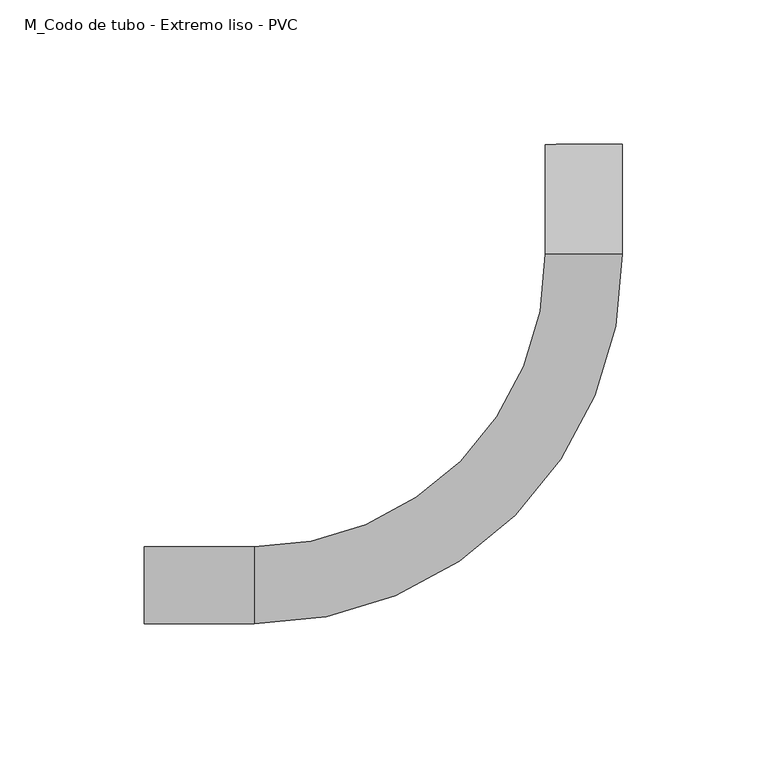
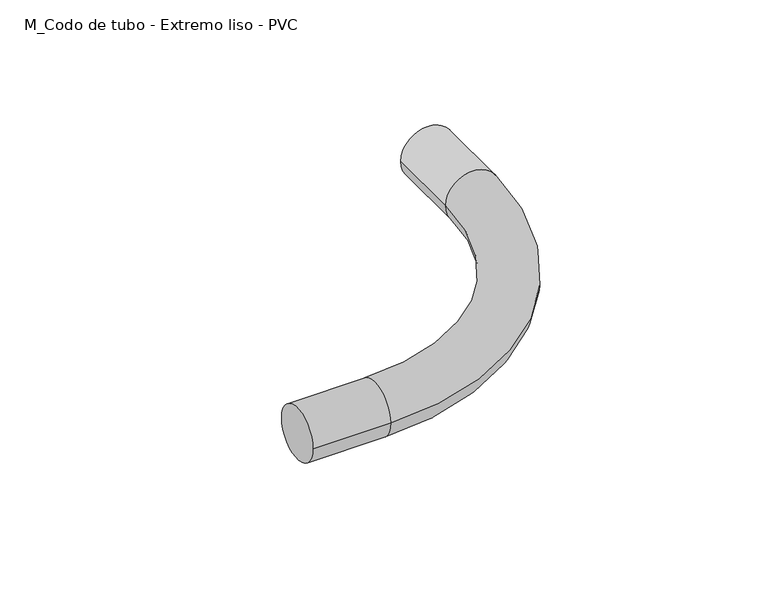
"""IFC4 building model written with IfcOpenShell, lengths in millimetres: cable carrier fitting geometry, M_Codo de tubo - Extremo liso - PVC : CODO ILUMINACION."""

import ifcopenshell
import ifcopenshell.guid

model = None  # the IFC model being written
_history = None  # IfcOwnerHistory: only IFC2X3 demands one
_inside = {}  # id of a spatial element -> (the spatial element, [elements in it])
_under = {}  # id of a project, library or spatial element -> (it, [spatial elements below it])
_declared = {}  # id of a project -> (the project, [libraries it declares])
_typed = {}  # id of a type object -> (the type object, [elements of that type])
_made_of = {}  # id of a material, layer set ... -> (it, [elements and type objects made of it])


def new_model(schema):
    """Start an empty IFC model of exactly this schema.

    Asked for "IFC4X3", IfcOpenShell would pick the latest addendum, in which some entities
    have other attributes; the version numbers below select the first issue.
    IFC2X3 requires an IfcOwnerHistory on every rooted entity: one is made here for all.
    """
    global model, _history
    if schema == "IFC4X3":
        model = ifcopenshell.file(schema_version=(4, 3, 0, 0))
    else:
        model = ifcopenshell.file(schema=schema)
    _inside.clear()
    _under.clear()
    _declared.clear()
    _typed.clear()
    _made_of.clear()
    _history = None
    if model.schema == "IFC2X3":
        org = make("IfcOrganization", Name="unknown")
        user = make(
            "IfcPersonAndOrganization",
            ThePerson=make("IfcPerson", FamilyName="unknown"),
            TheOrganization=org,
        )
        app = make(
            "IfcApplication",
            ApplicationDeveloper=org,
            Version="unknown",
            ApplicationFullName="unknown",
            ApplicationIdentifier="unknown",
        )
        _history = make(
            "IfcOwnerHistory",
            OwningUser=user,
            OwningApplication=app,
            ChangeAction="ADDED",
            CreationDate=0,
        )
    return model


def make(cls, **values):
    """One entity of the class cls with the attributes given. An attribute that is None is left unset."""
    return model.create_entity(
        cls, **{name: value for name, value in values.items() if value is not None}
    )


def rooted(cls, **values):
    """An entity with a GlobalId (a new one), such as an element, a storey or a relation."""
    return make(cls, GlobalId=ifcopenshell.guid.new(), OwnerHistory=_history, **values)


def si_unit(unit_type, name, prefix=None):
    """IfcSIUnit, for example si_unit("LENGTHUNIT", "METRE", prefix="MILLI")."""
    return make("IfcSIUnit", UnitType=unit_type, Prefix=prefix, Name=name)


def assignment(units):
    """IfcUnitAssignment: the units of a project."""
    return None if units is None else make("IfcUnitAssignment", Units=units)


def point(xyz):
    """IfcCartesianPoint."""
    return None if xyz is None else make("IfcCartesianPoint", Coordinates=xyz)


def direction(xyz):
    """IfcDirection."""
    return None if xyz is None else make("IfcDirection", DirectionRatios=xyz)


def frame(location, z_axis=None, x_axis=None):
    """IfcAxis2Placement3D, a coordinate frame: its origin and axes. An axis left out is left unset."""
    return make(
        "IfcAxis2Placement3D",
        Location=point(location),
        Axis=direction(z_axis),
        RefDirection=direction(x_axis),
    )


def origin():
    """The frame at (0, 0, 0) with its axes left unset."""
    return frame((0.0, 0.0, 0.0))


def place(relative_to, where):
    """IfcLocalPlacement: puts the frame where relative to a parent placement (None: the world)."""
    return make(
        "IfcLocalPlacement", PlacementRelTo=relative_to, RelativePlacement=where
    )


def context(
    kind, dimensions, precision=None, world=None, true_north=None, identifier=None
):
    """IfcGeometricRepresentationContext, for example the 3D "Model" context."""
    return make(
        "IfcGeometricRepresentationContext",
        ContextIdentifier=identifier,
        ContextType=kind,
        CoordinateSpaceDimension=dimensions,
        Precision=precision,
        WorldCoordinateSystem=world,
        TrueNorth=true_north,
    )


def project(units=None, contexts=None):
    """IfcProject with its units and contexts."""
    return rooted(
        "IfcProject",
        Name="project",
        RepresentationContexts=contexts,
        UnitsInContext=assignment(units),
    )


def spatial(cls, under=None, at=None, **own):
    """A site, building, storey or space (cls), placed at a placement, below another one or the project."""
    s = rooted(cls, ObjectPlacement=at, **own)
    if under is not None:
        _under.setdefault(under.id(), (under, []))[1].append(s)
    return s


def circle_curve(where, radius):
    """IfcCircle in the frame where."""
    return make("IfcCircle", Position=where, Radius=radius)


def ellipse_curve(where, semi_axis1, semi_axis2):
    """IfcEllipse in the frame where."""
    return make(
        "IfcEllipse", Position=where, SemiAxis1=semi_axis1, SemiAxis2=semi_axis2
    )


def trimmed(basis, trim1, trim2, sense, master):
    """IfcTrimmedCurve: the piece of a basis curve between two trims."""
    return make(
        "IfcTrimmedCurve",
        BasisCurve=basis,
        Trim1=trim1,
        Trim2=trim2,
        SenseAgreement=sense,
        MasterRepresentation=master,
    )


def shape(context_of_items, identifier, shape_type, items):
    """IfcShapeRepresentation: the items that make up one representation, for example the "Body"."""
    return make(
        "IfcShapeRepresentation",
        ContextOfItems=context_of_items,
        RepresentationIdentifier=identifier,
        RepresentationType=shape_type,
        Items=items,
    )


def source(mapping_origin, context_of_items, identifier, shape_type, items):
    """IfcRepresentationMap: a shape defined once, which mapped items show again and again."""
    return make(
        "IfcRepresentationMap",
        MappingOrigin=mapping_origin,
        MappedRepresentation=shape(context_of_items, identifier, shape_type, items),
    )


def transform(
    local_origin,
    x_axis=None,
    y_axis=None,
    z_axis=None,
    scale=None,
    scale2=None,
    scale3=None,
    uniform=True,
):
    """IfcCartesianTransformationOperator3D, or its non-uniform kind. x_axis, y_axis, z_axis: its Axis1, 2, 3."""
    if uniform:
        return make(
            "IfcCartesianTransformationOperator3D",
            Axis1=direction(x_axis),
            Axis2=direction(y_axis),
            LocalOrigin=point(local_origin),
            Scale=scale,
            Axis3=direction(z_axis),
        )
    return make(
        "IfcCartesianTransformationOperator3DnonUniform",
        Axis1=direction(x_axis),
        Axis2=direction(y_axis),
        LocalOrigin=point(local_origin),
        Scale=scale,
        Axis3=direction(z_axis),
        Scale2=scale2,
        Scale3=scale3,
    )


def mapped(mapping_source, mapping_target):
    """IfcMappedItem: shows the shape of a source again, moved by a transform."""
    return make(
        "IfcMappedItem", MappingSource=mapping_source, MappingTarget=mapping_target
    )


def made_of(thing, what):
    """Note that an element or type object is made of a material, layer set ...; save() writes the relation."""
    if what is not None:
        _made_of.setdefault(what.id(), (what, []))[1].append(thing)
    return thing


def element(
    cls,
    number,
    at=None,
    inside=None,
    cuts=None,
    type_object=None,
    material=None,
    context=None,
    identifier="Body",
    shape_type=None,
    held_by="IfcProductDefinitionShape",
    body=None,
    shapes=None,
    **own,
):
    """One element of the class cls, such as IfcWall. Its Tag is "e" and its number.

    at: its placement. inside: the storey or other place that contains it. cuts: it is an
    opening in that element (IfcRelVoidsElement). A single representation is given by context,
    identifier, shape_type and body (its items); several are given by shapes. held_by: the class
    of the entity that holds the representations. save() writes the other relations.
    """
    e = rooted(cls, Tag="e%d" % number, ObjectPlacement=at, **own)
    if body is not None:
        shapes = [shape(context, identifier, shape_type, body)]
    if shapes is not None:
        e.Representation = make(held_by, Representations=shapes)
    if inside is not None:
        _inside.setdefault(inside.id(), (inside, []))[1].append(e)
    if cuts is not None:
        rooted(
            "IfcRelVoidsElement", RelatingBuildingElement=cuts, RelatedOpeningElement=e
        )
    if type_object is not None:
        _typed.setdefault(type_object.id(), (type_object, []))[1].append(e)
    return made_of(e, material)


def aggregate(whole, parts):
    """IfcRelAggregates: a whole, such as a stair, and the parts it consists of."""
    return rooted("IfcRelAggregates", RelatingObject=whole, RelatedObjects=parts)


def save(model, path):
    """Write the relations noted so far, then the file.

    IfcRelAggregates (storeys below a building ...), IfcRelContainedInSpatialStructure (elements
    in a storey), IfcRelDefinesByType, IfcRelAssociatesMaterial and IfcRelDeclares: one each for
    every whole, place, type object, material and project.
    """
    for whole, parts in _under.values():
        aggregate(whole, parts)
    for where, things in _inside.values():
        rooted(
            "IfcRelContainedInSpatialStructure",
            RelatedElements=things,
            RelatingStructure=where,
        )
    for kind, things in _typed.values():
        rooted("IfcRelDefinesByType", RelatedObjects=things, RelatingType=kind)
    for what, things in _made_of.values():
        rooted("IfcRelAssociatesMaterial", RelatedObjects=things, RelatingMaterial=what)
    for by, libraries in _declared.values():
        rooted("IfcRelDeclares", RelatingContext=by, RelatedDefinitions=libraries)
    model.write(path)


def plane_surface(at):
    """IfcPlane: the flat surface through the origin of the frame at, square to its z axis."""
    return make("IfcPlane", Position=at)


def cylinder_surface(at, radius):
    """IfcCylindricalSurface: all points at the distance radius from the z axis of the frame at."""
    return make("IfcCylindricalSurface", Position=at, Radius=radius)


def revolved_surface(curve, axis_point, axis_direction):
    """IfcSurfaceOfRevolution: the curve turned about the line through axis_point along axis_direction."""
    return make(
        "IfcSurfaceOfRevolution",
        SweptCurve=make("IfcArbitraryOpenProfileDef", ProfileType="CURVE", Curve=curve),
        AxisPosition=make("IfcAxis1Placement", Location=point(axis_point), Axis=direction(axis_direction)),
    )


def advanced_brep(points, edges, surfaces, faces):
    """IfcAdvancedBrep: a solid bounded by faces that lie on surfaces and meet in shared edges.

    An edge is (start, end): straight between two places in points (the first is 0);
    or (start, end, curve); or (start, end, curve, False) where it runs against its curve.
    A face is (place in surfaces, loops), or (place, loops, False) where it looks against
    its surface's normal. A loop lists edges by number (the first is 1), with a minus sign
    where the edge is run from its end to its start. The first loop is the outer one.
    """
    corners = [point(p) for p in points]
    vertices = [make("IfcVertexPoint", VertexGeometry=c) for c in corners]
    made = []
    for start, end, *more in edges:
        made.append(
            make(
                "IfcEdgeCurve",
                EdgeStart=vertices[start],
                EdgeEnd=vertices[end],
                EdgeGeometry=more[0] if more else make("IfcPolyline", Points=[corners[start], corners[end]]),
                SameSense=more[1] if len(more) > 1 else True,
            )
        )
    hull = []
    for where, loops, *sense in faces:
        bounds = []
        for j, loop in enumerate(loops):
            ring = [make("IfcOrientedEdge", EdgeElement=made[abs(k) - 1], Orientation=k > 0) for k in loop]
            bounds.append(
                make(
                    "IfcFaceOuterBound" if j == 0 else "IfcFaceBound",
                    Bound=make("IfcEdgeLoop", EdgeList=ring),
                    Orientation=True,
                )
            )
        hull.append(make("IfcAdvancedFace", Bounds=bounds, FaceSurface=surfaces[where], SameSense=sense[0] if sense else True))
    return make("IfcAdvancedBrep", Outer=make("IfcClosedShell", CfsFaces=hull))


def m_codo_de_tubo_extremo_liso_pvc_be22f626(model_context):
    return source(origin(), model_context, "Body", "AdvancedBrep", [
        advanced_brep(
        [(-152.8150662, -13.335, 0.0), (-152.8150662, 13.335, 0.0), (-114.7150662, -13.335, 0.0), (-114.7150662, 13.335, 0.0), (-13.7507295, 114.6659761, 0.0), (12.9190953, 114.762649, 0.0), (12.7809911, 152.8623987, 0.0), (-13.8888337, 152.7657258, 0.0)],
        [
            (0, 1, circle_curve(frame((-152.8150662, 0.0, 0.0), z_axis=(-1.0, 0.0, 0.0), x_axis=(0.0, 1.0, 0.0)), 13.335)),
            (1, 0, circle_curve(frame((-152.8150662, 0.0, 0.0), z_axis=(-1.0, 0.0, 0.0), x_axis=(0.0, 1.0, 0.0)), 13.335)),
            (0, 2),
            (2, 3, circle_curve(frame((-114.7150662, 0.0, 0.0), z_axis=(-1.0, 0.0, 0.0), x_axis=(0.0, 1.0, 0.0)), 13.335)),
            (3, 1),
            (3, 2, circle_curve(frame((-114.7150662, 0.0, 0.0), z_axis=(-1.0, 0.0, 0.0), x_axis=(0.0, 1.0, 0.0)), 13.335)),
            (4, 3, circle_curve(frame((-114.7150662, 114.3, 0.0), z_axis=(0.0, 0.0, -1.0), x_axis=(0.0, -1.0, 0.0)), 100.965)),
            (2, 5, circle_curve(frame((-114.7150662, 114.3, 0.0), z_axis=(0.0, 0.0, 1.0), x_axis=(0.0, -1.0, 0.0)), 127.635)),
            (5, 4, circle_curve(frame((-0.4158171, 114.7143126, 0.0), z_axis=(0.003624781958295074, -0.999993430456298, 0.0), x_axis=(-0.999993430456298, -0.003624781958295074, 0.0)), 13.335)),
            (4, 5, circle_curve(frame((-0.4158171, 114.7143126, 0.0), z_axis=(0.003624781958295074, -0.999993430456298, 0.0), x_axis=(-0.999993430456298, -0.003624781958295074, 0.0)), 13.335)),
            (6, 7, circle_curve(frame((-0.5539213, 152.8140623, 0.0), z_axis=(-0.0036247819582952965, 0.999993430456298, 0.0), x_axis=(-0.999993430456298, -0.0036247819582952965, 0.0)), 13.335)),
            (7, 6, circle_curve(frame((-0.5539213, 152.8140623, 0.0), z_axis=(-0.0036247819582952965, 0.999993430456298, 0.0), x_axis=(-0.999993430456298, -0.0036247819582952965, 0.0)), 13.335)),
            (5, 6),
            (7, 4),
        ],
        [
            plane_surface(frame((-152.8150662, 0.0, 0.0), z_axis=(-1.0, 0.0, 0.0), x_axis=(0.0, 0.0, 1.0))),
            cylinder_surface(frame((-152.8150662, 0.0, 0.0), z_axis=(-1.0, 0.0, 0.0), x_axis=(0.0, 1.0, 0.0)), 13.335),
            revolved_surface(trimmed(ellipse_curve(frame((-114.7150662, 0.0, 0.0), z_axis=(-1.0, 0.0, 0.0), x_axis=(0.0, 1.0, 0.0)), 13.335, 13.335), [point((-114.7150662, -13.335, 0.0))], [point((-114.7150662, 13.335, 0.0))], True, "CARTESIAN"), (-114.7150662, 114.3, 0.0), (0.0, 0.0, 1.0)),
            revolved_surface(trimmed(ellipse_curve(frame((-114.7150662, 0.0, 0.0), z_axis=(-1.0, 0.0, 0.0), x_axis=(0.0, 1.0, 0.0)), 13.335, 13.335), [point((-114.7150662, 13.335, 0.0))], [point((-114.7150662, -13.335, 0.0))], True, "CARTESIAN"), (-114.7150662, 114.3, 0.0), (0.0, 0.0, 1.0)),
            plane_surface(frame((-0.5539213, 152.8140623, 0.0), z_axis=(-0.0036247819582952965, 0.999993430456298, 0.0), x_axis=(0.0, 0.0, 1.0))),
            cylinder_surface(frame((-0.4158171, 114.7143126, 0.0), z_axis=(0.0036247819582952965, -0.999993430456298, 0.0), x_axis=(-0.999993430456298, -0.0036247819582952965, 0.0)), 13.335),
        ],
        [
            (0, [[1, 2]]),
            (1, [[-1, 3, 4, 5]]),
            (1, [[-2, -5, 6, -3]]),
            (2, [[7, -4, 8, 9]]),
            (3, [[-8, -6, -7, 10]]),
            (4, [[11, 12]]),
            (5, [[-9, 13, -12, 14]]),
            (5, [[-10, -14, -11, -13]]),
        ],
    ),
    ])


if __name__ == "__main__":
    model = new_model("IFC4")
    model_context = context("Model", 3, world=origin())
    ifc_project = project(units=[si_unit("LENGTHUNIT", "METRE", prefix="MILLI")], contexts=[model_context])
    site = spatial("IfcSite", under=ifc_project)
    building = spatial("IfcBuilding", under=site)
    placement = place(None, origin())
    m_codo_de_tubo_extremo_liso_pvc_shape = m_codo_de_tubo_extremo_liso_pvc_be22f626(model_context)
    element("IfcCableCarrierFitting", 1, ObjectType="M_Codo de tubo - Extremo liso - PVC : CODO ILUMINACION", at=placement, inside=building, context=model_context, shape_type="MappedRepresentation", body=[
        mapped(m_codo_de_tubo_extremo_liso_pvc_shape, transform((0.0, 0.0, 0.0), x_axis=(1.0, 0.0, 0.0), y_axis=(0.0, 1.0, 0.0), z_axis=(0.0, 0.0, 1.0))),
    ])
    save(model, "model.ifc")
